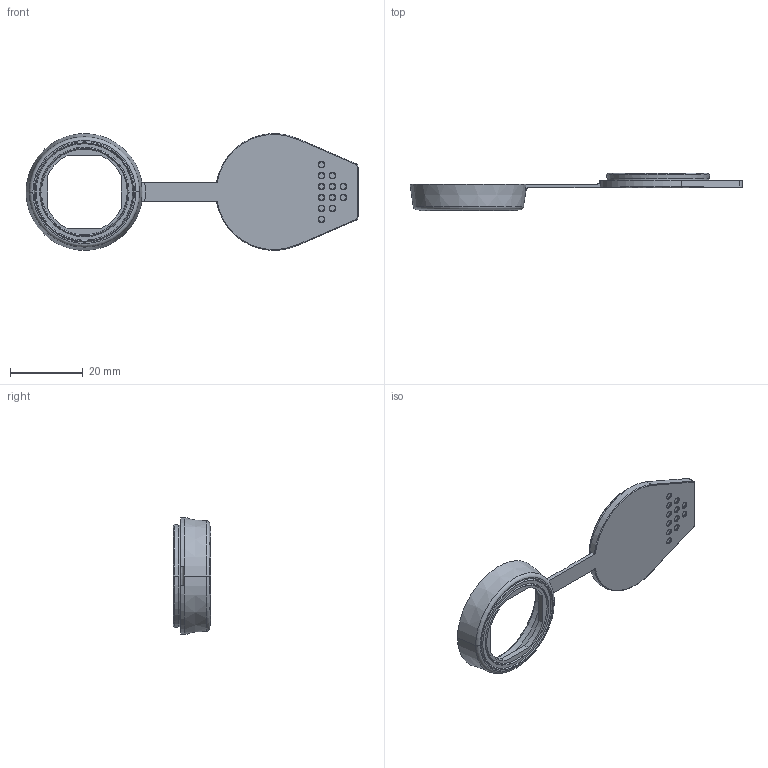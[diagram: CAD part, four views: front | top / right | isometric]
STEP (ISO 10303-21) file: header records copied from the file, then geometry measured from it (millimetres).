
FILE_DESCRIPTION((''),'2;1');
FILE_NAME('MIFONGGAO','2016-07-07T',('Administrator'),(''),'PRO/ENGINEER BY PARAMETRIC TECHNOLOGY CORPORATION, 2009060','PRO/ENGINEER BY PARAMETRIC TECHNOLOGY CORPORATION, 2009060','');
FILE_SCHEMA(('CONFIG_CONTROL_DESIGN'));
Length unit declared in the file: millimetre
Products named in the file (1): MIFONGGAO
Bounding box: 91 x 10.3 x 31.91 mm (x, y, z)
Volume: 3640.9 mm3; surface area: 4772.9 mm2
Topology: 1 solids, 1 shells, 103 faces, 226 edges, 142 vertices
Faces by surface type: plane 31, bspline 24, cone 22, cylinder 16, torus 10
Entity records: 3633 total; most frequent: CARTESIAN_POINT 1483, ORIENTED_EDGE 452, DIRECTION 383, EDGE_CURVE 226, AXIS2_PLACEMENT_3D 158, VERTEX_POINT 142, EDGE_LOOP 122, FACE_OUTER_BOUND 103
